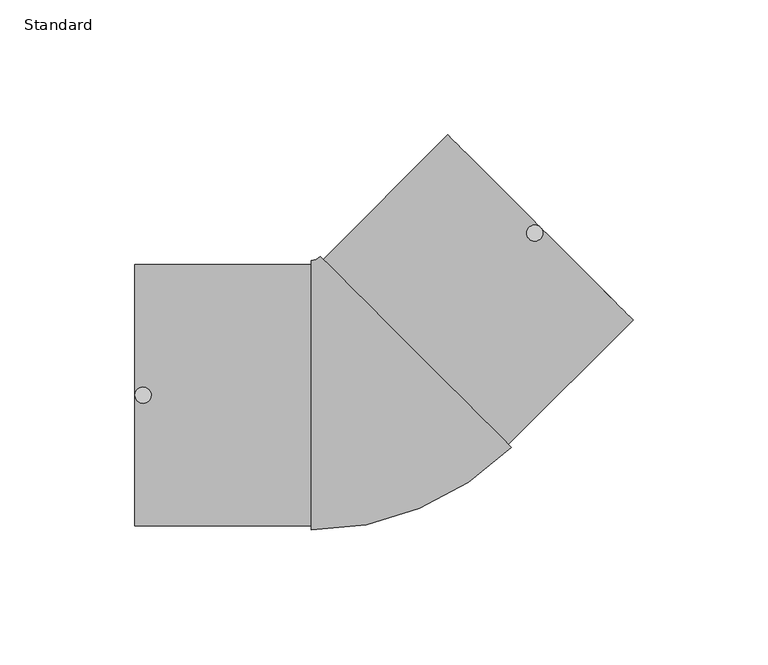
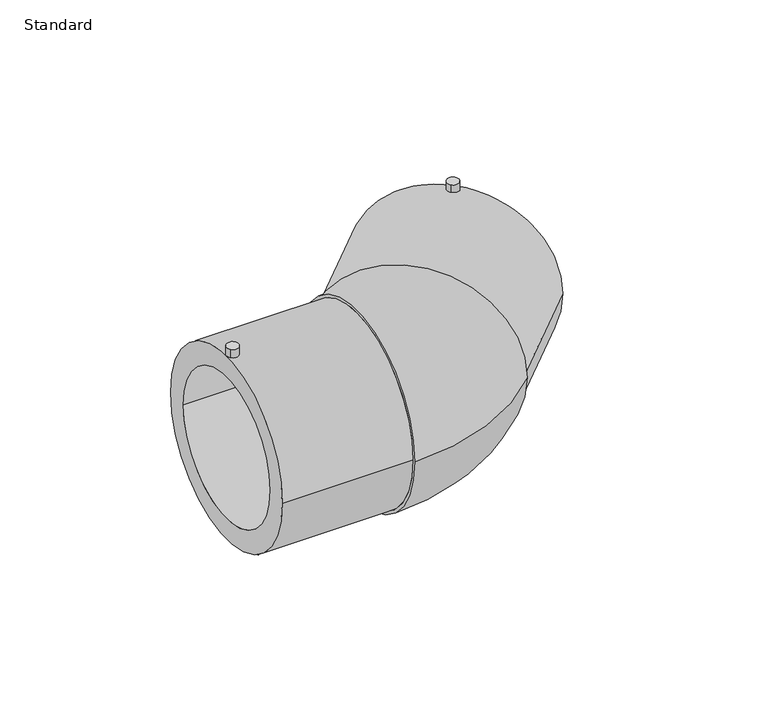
"""IFC4 building model written with IfcOpenShell, lengths in millimetres: pipe fitting geometry, EGB_VASEN_ PPR_Codo electrosoldable 90 WXRD200_Codo electrosoldable 45 WXRD220 : Standard."""

from ifc_helpers import new_model, si_unit, point, frame, frame_2d, origin, place, context, project, spatial, polyline, circle_curve, ellipse_curve, trimmed, segment, composite_curve, outline, extrude, source, transform, mapped, element, save
from ifc_brep_helpers import plane_surface, cylinder_surface, revolved_surface, advanced_brep


def standard_8a3cada3(model_context):
    return source(origin(), model_context, "Body", "SolidModel", [
        advanced_brep(
        [(-88.0, -48.5, 0.0), (-88.0, 48.5, 0.0), (-88.0, -37.5, 0.0), (-88.0, 37.5, 0.0), (-22.7106781, -48.5, 0.0), (-22.7106781, 48.5, 0.0), (-22.7106781, -37.5, 0.0), (-22.7106781, 37.5, 0.0), (-22.7106781, -50.0, 0.0), (-22.7106781, 50.0, 0.0), (51.4142136, -19.2964646, 0.0), (-19.2964646, 51.4142136, 0.0), (50.3535534, -18.2358044, 0.0), (-18.2358044, 50.3535534, 0.0), (42.5753788, -10.4576298, 0.0), (-10.4576298, 42.5753788, 0.0), (96.5200756, 27.9307179, 0.0), (27.9307179, 96.5200756, 0.0), (88.741901, 35.7088924, 0.0), (35.7088924, 88.741901, 0.0)],
        [
            (0, 1, circle_curve(frame((-88.0, 0.0, 0.0), z_axis=(-1.0, 0.0, 0.0), x_axis=(0.0, 1.0, 0.0)), 48.5)),
            (1, 0, circle_curve(frame((-88.0, 0.0, 0.0), z_axis=(-1.0, 0.0, 0.0), x_axis=(0.0, 1.0, 0.0)), 48.5)),
            (2, 3, circle_curve(frame((-88.0, 0.0, 0.0), z_axis=(1.0, 0.0, 0.0), x_axis=(0.0, 1.0, 0.0)), 37.5)),
            (3, 2, circle_curve(frame((-88.0, 0.0, 0.0), z_axis=(1.0, 0.0, 0.0), x_axis=(0.0, 1.0, 0.0)), 37.5)),
            (0, 4),
            (4, 5, circle_curve(frame((-22.7106781, 0.0, 0.0), z_axis=(-1.0, 0.0, 0.0), x_axis=(0.0, 1.0, 0.0)), 48.5)),
            (5, 1),
            (5, 4, circle_curve(frame((-22.7106781, 0.0, 0.0), z_axis=(-1.0, 0.0, 0.0), x_axis=(0.0, 1.0, 0.0)), 48.5)),
            (2, 6),
            (6, 7, circle_curve(frame((-22.7106781, 0.0, 0.0), z_axis=(1.0, 0.0, 0.0), x_axis=(0.0, 1.0, 0.0)), 37.5)),
            (7, 3),
            (7, 6, circle_curve(frame((-22.7106781, 0.0, 0.0), z_axis=(1.0, 0.0, 0.0), x_axis=(0.0, 1.0, 0.0)), 37.5)),
            (8, 9, circle_curve(frame((-22.7106781, 0.0, 0.0), z_axis=(-1.0, 0.0, 0.0), x_axis=(0.0, 1.0, 0.0)), 50.0)),
            (9, 8, circle_curve(frame((-22.7106781, 0.0, 0.0), z_axis=(-1.0, 0.0, 0.0), x_axis=(0.0, 1.0, 0.0)), 50.0)),
            (10, 11, circle_curve(frame((16.0588745, 16.0588745, 0.0), z_axis=(0.7071067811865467, 0.7071067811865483, 0.0), x_axis=(-0.7071067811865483, 0.7071067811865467, 0.0)), 50.0)),
            (11, 10, circle_curve(frame((16.0588745, 16.0588745, 0.0), z_axis=(0.7071067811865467, 0.7071067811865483, 0.0), x_axis=(-0.7071067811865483, 0.7071067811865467, 0.0)), 50.0)),
            (12, 13, circle_curve(frame((16.0588745, 16.0588745, 0.0), z_axis=(-0.7071067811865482, -0.7071067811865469, 0.0), x_axis=(-0.7071067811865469, 0.7071067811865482, 0.0)), 48.5)),
            (13, 12, circle_curve(frame((16.0588745, 16.0588745, 0.0), z_axis=(-0.7071067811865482, -0.7071067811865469, 0.0), x_axis=(-0.7071067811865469, 0.7071067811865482, 0.0)), 48.5)),
            (14, 15, circle_curve(frame((16.0588745, 16.0588745, 0.0), z_axis=(0.7071067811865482, 0.7071067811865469, 0.0), x_axis=(-0.7071067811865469, 0.7071067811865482, 0.0)), 37.5)),
            (15, 14, circle_curve(frame((16.0588745, 16.0588745, 0.0), z_axis=(0.7071067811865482, 0.7071067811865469, 0.0), x_axis=(-0.7071067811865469, 0.7071067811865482, 0.0)), 37.5)),
            (8, 10, circle_curve(frame((-22.7106781, 54.8284271, 0.0), z_axis=(0.0, 0.0, 1.0), x_axis=(0.0, -1.0, 0.0)), 104.8284271)),
            (11, 9, circle_curve(frame((-22.7106781, 54.8284271, 0.0), z_axis=(0.0, 0.0, -1.0), x_axis=(0.0, -1.0, 0.0)), 4.8284271)),
            (16, 17, circle_curve(frame((62.2253967, 62.2253967, 0.0), z_axis=(0.7071067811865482, 0.7071067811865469, 0.0), x_axis=(-0.7071067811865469, 0.7071067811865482, 0.0)), 48.5)),
            (17, 16, circle_curve(frame((62.2253967, 62.2253967, 0.0), z_axis=(0.7071067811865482, 0.7071067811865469, 0.0), x_axis=(-0.7071067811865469, 0.7071067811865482, 0.0)), 48.5)),
            (18, 19, circle_curve(frame((62.2253967, 62.2253967, 0.0), z_axis=(-0.7071067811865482, -0.7071067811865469, 0.0), x_axis=(-0.7071067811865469, 0.7071067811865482, 0.0)), 37.5)),
            (19, 18, circle_curve(frame((62.2253967, 62.2253967, 0.0), z_axis=(-0.7071067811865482, -0.7071067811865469, 0.0), x_axis=(-0.7071067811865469, 0.7071067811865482, 0.0)), 37.5)),
            (17, 13),
            (12, 16),
            (19, 15),
            (14, 18),
        ],
        [
            plane_surface(frame((-88.0, 0.0, 0.0), z_axis=(-1.0, 0.0, 0.0), x_axis=(0.0, 0.0, 1.0))),
            cylinder_surface(frame((-88.0, 0.0, 0.0), z_axis=(-1.0, 0.0, 0.0), x_axis=(0.0, 1.0, 0.0)), 48.5),
            revolved_surface(polyline([(-22.710678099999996, 37.5, 0.0), (-88.0, 37.5, 0.0)]), (-88.0, 0.0, 0.0), (1.0, 0.0, 0.0)),
            plane_surface(frame((-22.7106781, 0.0, 0.0), z_axis=(-1.0, 0.0, 0.0), x_axis=(0.0, 0.0, 1.0))),
            plane_surface(frame((16.0588745, 16.0588745, 0.0), z_axis=(0.7071067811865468, 0.7071067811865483, 0.0), x_axis=(0.0, 0.0, 1.0))),
            revolved_surface(trimmed(ellipse_curve(frame((-22.7106781, 0.0, 0.0), z_axis=(-1.0, 0.0, 0.0), x_axis=(0.0, 1.0, 0.0)), 50.0, 50.0), [point((-22.7106781, -50.0, 0.0))], [point((-22.7106781, 50.0, 0.0))], True, "CARTESIAN"), (-22.7106781, 54.8284271, 0.0), (0.0, 0.0, 1.0)),
            revolved_surface(trimmed(ellipse_curve(frame((-22.7106781, 0.0, 0.0), z_axis=(-1.0, 0.0, 0.0), x_axis=(0.0, 1.0, 0.0)), 50.0, 50.0), [point((-22.7106781, 50.0, 0.0))], [point((-22.7106781, -50.0, 0.0))], True, "CARTESIAN"), (-22.7106781, 54.8284271, 0.0), (0.0, 0.0, 1.0)),
            plane_surface(frame((62.2253967, 62.2253967, 0.0), z_axis=(0.7071067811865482, 0.7071067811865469, 0.0), x_axis=(0.0, 0.0, 1.0))),
            cylinder_surface(frame((16.0588745, 16.0588745, 0.0), z_axis=(-0.7071067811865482, -0.7071067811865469, 0.0), x_axis=(-0.7071067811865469, 0.7071067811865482, 0.0)), 48.5),
            revolved_surface(polyline([(35.70889240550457, 88.74190099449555, 0.0), (-10.457629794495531, 42.575378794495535, 0.0)]), (16.0588745, 16.0588745, 0.0), (0.7071067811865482, 0.7071067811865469, 0.0)),
        ],
        [
            (0, [[1, 2], [3, 4]]),
            (1, [[-1, 5, 6, 7]]),
            (1, [[-2, -7, 8, -5]]),
            (2, [[-3, 9, 10, 11]]),
            (2, [[-4, -11, 12, -9]]),
            (3, [[-10, -12]]),
            (3, [[13, 14], [-6, -8]]),
            (4, [[15, 16], [17, 18]]),
            (4, [[19, 20]]),
            (5, [[-13, 21, -16, 22]]),
            (6, [[-14, -22, -15, -21]]),
            (7, [[23, 24], [25, 26]]),
            (8, [[-24, 27, -17, 28]]),
            (8, [[-23, -28, -18, -27]]),
            (9, [[-26, 29, -19, 30]]),
            (9, [[-25, -30, -20, -29]]),
        ],
    ),
        extrude(outline(composite_curve([segment(trimmed(circle_curve(frame_2d((60.1040764, 60.1040764)), 3.0), [point((57.9827561, 57.9827561))], [point((62.2253967, 62.2253967))], False, "CARTESIAN"), True, "CONTINUOUS"), segment(trimmed(circle_curve(frame_2d((60.1040764, 60.1040764)), 3.0), [point((62.2253967, 62.2253967))], [point((57.9827561, 57.9827561))], False, "CARTESIAN"), True, "CONTINUOUS")], self_intersect=False)), frame((0.0, 0.0, 38.5), z_axis=(0.0, 0.0, 1.0), x_axis=(1.0, 0.0, 0.0)), (0.0, 0.0, 1.0), 14.5),
        extrude(outline(composite_curve([segment(trimmed(circle_curve(frame_2d((-85.0, 0.0)), 3.0), [point((-87.1213203, -2.1213203))], [point((-82.8786797, 2.1213203))], False, "CARTESIAN"), True, "CONTINUOUS"), segment(trimmed(circle_curve(frame_2d((-85.0, 0.0)), 3.0), [point((-82.8786797, 2.1213203))], [point((-87.1213203, -2.1213203))], False, "CARTESIAN"), True, "CONTINUOUS")], self_intersect=False)), frame((0.0, 0.0, 38.5), z_axis=(0.0, 0.0, 1.0), x_axis=(1.0, 0.0, 0.0)), (0.0, 0.0, 1.0), 14.5),
    ])


if __name__ == "__main__":
    model = new_model("IFC4")
    model_context = context("Model", 3, world=origin())
    ifc_project = project(units=[si_unit("LENGTHUNIT", "METRE", prefix="MILLI")], contexts=[model_context])
    site = spatial("IfcSite", under=ifc_project)
    building = spatial("IfcBuilding", under=site)
    placement = place(None, origin())
    standard_shape = standard_8a3cada3(model_context)
    element("IfcPipeFitting", 1, ObjectType="EGB_VASEN_ PPR_Codo electrosoldable 90 WXRD200_Codo electrosoldable 45 WXRD220 : Standard", at=placement, inside=building, context=model_context, shape_type="MappedRepresentation", body=[
        mapped(standard_shape, transform((0.0, 0.0, 0.0), x_axis=(1.0, 0.0, 0.0), y_axis=(0.0, 1.0, 0.0), z_axis=(0.0, 0.0, 1.0))),
    ])
    save(model, "model.ifc")
